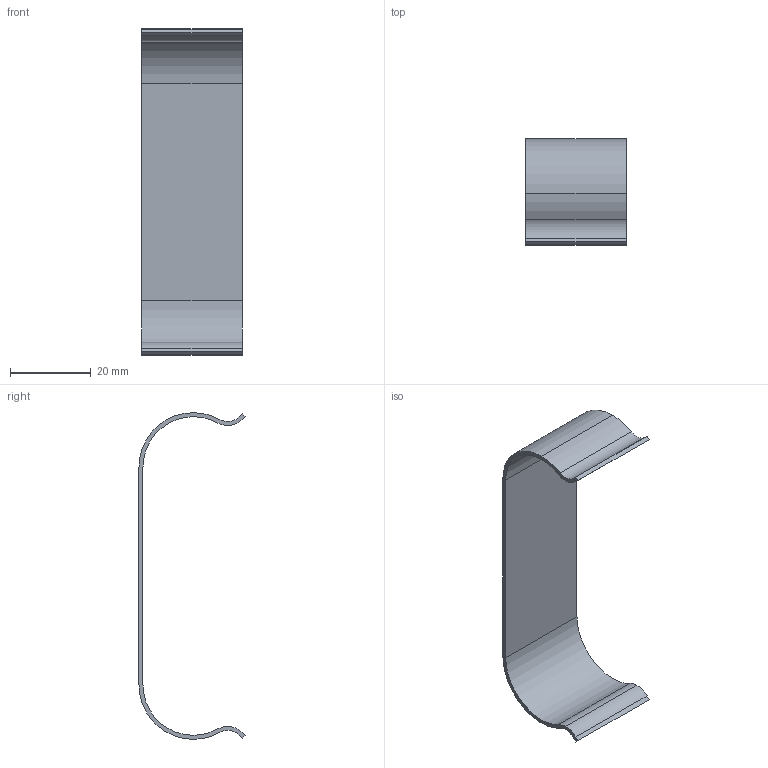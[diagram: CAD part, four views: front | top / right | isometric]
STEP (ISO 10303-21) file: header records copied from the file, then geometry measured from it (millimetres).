
FILE_DESCRIPTION (( 'STEP AP214' ), '1' );
FILE_NAME ('JB-56027.step', '2024-01-17T00:58:54', ( 'catia' ), ( 'HP Inc.' ), 'SwSTEP 2.0', 'SolidWorks 2021', '' );
FILE_SCHEMA (( 'AUTOMOTIVE_DESIGN' ));
Length unit declared in the file: millimetre
Products named in the file (1): JB-56027
Bounding box: 25 x 26.3 x 81 mm (x, y, z)
Volume: 3045.3 mm3; surface area: 6384.3 mm2
Topology: 1 solids, 1 shells, 22 faces, 60 edges, 40 vertices
Faces by surface type: cylinder 12, plane 10
Entity records: 742 total; most frequent: DIRECTION 130, CARTESIAN_POINT 123, ORIENTED_EDGE 120, EDGE_CURVE 60, AXIS2_PLACEMENT_3D 47, VERTEX_POINT 40, LINE 36, VECTOR 36
